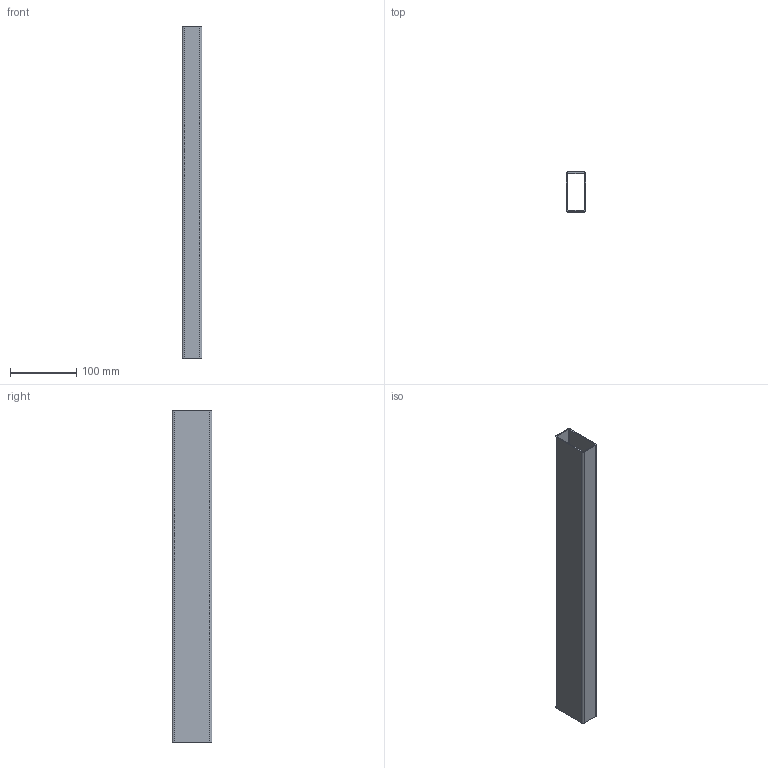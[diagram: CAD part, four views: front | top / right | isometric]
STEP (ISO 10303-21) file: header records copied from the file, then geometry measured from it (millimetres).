
FILE_DESCRIPTION (( 'STEP AP214' ), '1' );
FILE_NAME ('A21621.step', '2024-12-03T16:11:08', ( '' ), ( '' ), 'SwSTEP 2.0', 'SolidWorks 2023', '' );
FILE_SCHEMA (( 'AUTOMOTIVE_DESIGN' ));
Length unit declared in the file: millimetre
Products named in the file (1): A21621
Bounding box: 30 x 60 x 500 mm (x, y, z)
Volume: 169854 mm3; surface area: 168387.4 mm2
Topology: 1 solids, 1 shells, 18 faces, 48 edges, 32 vertices
Faces by surface type: plane 10, cylinder 8
Entity records: 595 total; most frequent: DIRECTION 102, CARTESIAN_POINT 99, ORIENTED_EDGE 96, EDGE_CURVE 48, AXIS2_PLACEMENT_3D 35, LINE 32, VERTEX_POINT 32, VECTOR 32
